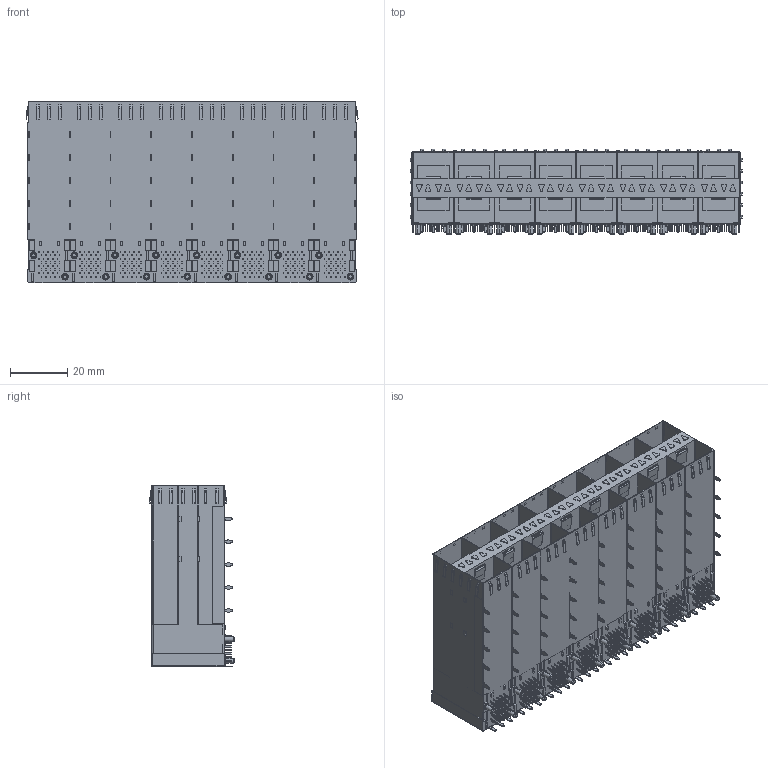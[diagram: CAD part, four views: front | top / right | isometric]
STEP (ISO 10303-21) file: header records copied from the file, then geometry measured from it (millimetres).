
FILE_DESCRIPTION (( 'STEP AP203' ), '1' );
FILE_NAME ('SFP 2X8内外导光柱（3D-20221101）.STEP', '2022-11-01T08:54:12', ( '桑三博客' ), ( 'Www.SangSan.Cn' ), 'SwSTEP 2.0', 'SolidWorks 2018', '' );
FILE_SCHEMA (( 'CONFIG_CONTROL_DESIGN' ));
Products named in the file (1): SFP 2X8内外导光柱（3D-20221101）
Bounding box: 116.05 x 29.8 x 63.5 mm (x, y, z)
Volume: 92950.5 mm3; surface area: 64042.9 mm2
Topology: 1 solids, 1 shells, 4798 faces, 12718 edges, 8454 vertices
Faces by surface type: plane 3590, cylinder 1142, cone 64, sphere 2
Entity records: 147933 total; most frequent: CARTESIAN_POINT 25969, ORIENTED_EDGE 25432, DIRECTION 24662, EDGE_CURVE 12716, VECTOR 10368, LINE 10368, VERTEX_POINT 8454, AXIS2_PLACEMENT_3D 7147
